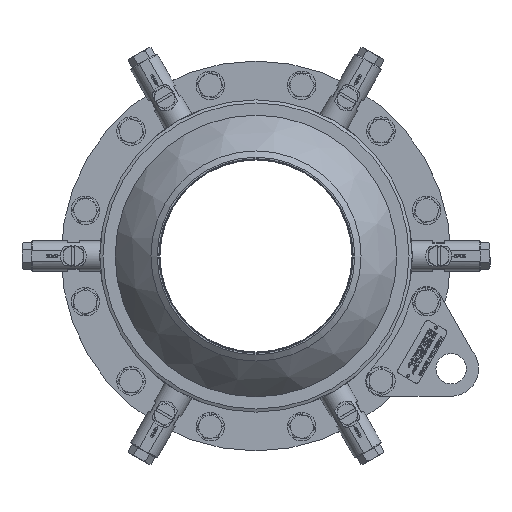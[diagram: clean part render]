
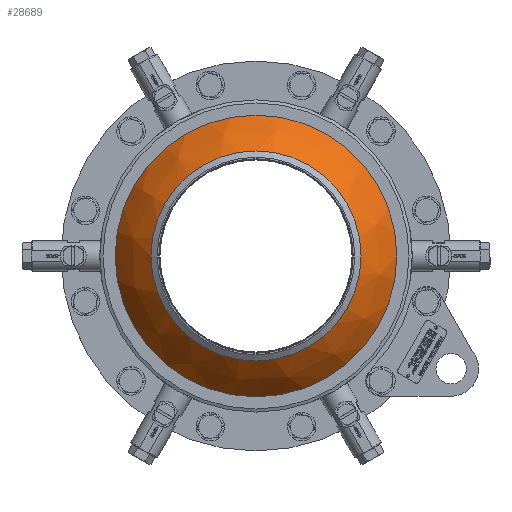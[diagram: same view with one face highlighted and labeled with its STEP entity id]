
A CAD part, front view. The second image highlights one B-rep face of the part: STEP entity #28689.
In plain terms, the highlighted free-form (B-spline) face has degree [2, 2] with [3, 9] control points.
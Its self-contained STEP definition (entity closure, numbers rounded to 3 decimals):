
#6365=(
BOUNDED_CURVE()
B_SPLINE_CURVE(2,(#38381,#38382,#38383),.UNSPECIFIED.,.F.,.F.)
B_SPLINE_CURVE_WITH_KNOTS((3,3),(0.496,0.925),
 .UNSPECIFIED.)
CURVE()
GEOMETRIC_REPRESENTATION_ITEM()
RATIONAL_B_SPLINE_CURVE((1.,0.977,1.))
REPRESENTATION_ITEM('')
);
#6445=(
BOUNDED_SURFACE()
B_SPLINE_SURFACE(2,2,((#38350,#38351,#38352,#38353,#38354,#38355,#38356,
#38357,#38358),(#38359,#38360,#38361,#38362,#38363,#38364,#38365,#38366,
#38367),(#38368,#38369,#38370,#38371,#38372,#38373,#38374,#38375,#38376)),
 .UNSPECIFIED.,.F.,.T.,.F.)
B_SPLINE_SURFACE_WITH_KNOTS((3,3),(3,2,2,2,3),(-0.925,-0.496),
(-3.142,-1.571,0.,1.571,3.142),
 .UNSPECIFIED.)
GEOMETRIC_REPRESENTATION_ITEM()
RATIONAL_B_SPLINE_SURFACE(((1.,0.707,1.,0.707,1.,
0.707,1.,0.707,1.),(0.977,0.691,
0.977,0.691,0.977,0.691,
0.977,0.691,0.977),(1.,0.707,
1.,0.707,1.,0.707,1.,0.707,1.)))
REPRESENTATION_ITEM('')
SURFACE()
);
#10087=FACE_OUTER_BOUND('',#11708,.T.);
#11708=EDGE_LOOP('',(#20623,#20624,#20625,#20626,#20627,#20628));
#13552=CIRCLE('',#30378,4.313);
#13553=CIRCLE('',#30379,4.313);
#13554=CIRCLE('',#30380,5.781);
#13555=CIRCLE('',#30381,5.781);
#13785=VERTEX_POINT('',#38346);
#13786=VERTEX_POINT('',#38347);
#13787=VERTEX_POINT('',#38377);
#13788=VERTEX_POINT('',#38378);
#16521=EDGE_CURVE('',#13785,#13786,#13552,.T.);
#16522=EDGE_CURVE('',#13786,#13785,#13553,.T.);
#16523=EDGE_CURVE('',#13787,#13788,#13554,.T.);
#16524=EDGE_CURVE('',#13788,#13787,#13555,.T.);
#16525=EDGE_CURVE('',#13788,#13786,#6365,.T.);
#20623=ORIENTED_EDGE('',*,*,#16523,.F.);
#20624=ORIENTED_EDGE('',*,*,#16524,.F.);
#20625=ORIENTED_EDGE('',*,*,#16525,.T.);
#20626=ORIENTED_EDGE('',*,*,#16522,.T.);
#20627=ORIENTED_EDGE('',*,*,#16521,.T.);
#20628=ORIENTED_EDGE('',*,*,#16525,.F.);
#28689=ADVANCED_FACE('',(#10087),#6445,.F.);
#30378=AXIS2_PLACEMENT_3D('',#38348,#31941,#31942);
#30379=AXIS2_PLACEMENT_3D('',#38349,#31943,#31944);
#30380=AXIS2_PLACEMENT_3D('',#38379,#31945,#31946);
#30381=AXIS2_PLACEMENT_3D('',#38380,#31947,#31948);
#31941=DIRECTION('center_axis',(1.,0.,0.));
#31942=DIRECTION('ref_axis',(0.,1.,0.));
#31943=DIRECTION('center_axis',(1.,0.,0.));
#31944=DIRECTION('ref_axis',(0.,1.,0.));
#31945=DIRECTION('center_axis',(1.,0.,0.));
#31946=DIRECTION('ref_axis',(0.,1.,0.));
#31947=DIRECTION('center_axis',(1.,0.,0.));
#31948=DIRECTION('ref_axis',(0.,1.,0.));
#38346=CARTESIAN_POINT('',(-7.582,4.313,0.));
#38347=CARTESIAN_POINT('',(-7.582,0.,4.313));
#38348=CARTESIAN_POINT('Origin',(-7.582,0.,
0.));
#38349=CARTESIAN_POINT('Origin',(-7.582,0.,
0.));
#38350=CARTESIAN_POINT('Ctrl Pts',(-7.582,0.,
4.313));
#38351=CARTESIAN_POINT('Ctrl Pts',(-7.582,-4.313,4.313));
#38352=CARTESIAN_POINT('Ctrl Pts',(-7.582,-4.313,0.));
#38353=CARTESIAN_POINT('Ctrl Pts',(-7.582,-4.313,-4.313));
#38354=CARTESIAN_POINT('Ctrl Pts',(-7.582,0.,
-4.313));
#38355=CARTESIAN_POINT('Ctrl Pts',(-7.582,4.313,-4.313));
#38356=CARTESIAN_POINT('Ctrl Pts',(-7.582,4.313,0.));
#38357=CARTESIAN_POINT('Ctrl Pts',(-7.582,4.313,4.313));
#38358=CARTESIAN_POINT('Ctrl Pts',(-7.582,0.,
4.313));
#38359=CARTESIAN_POINT('Ctrl Pts',(-6.888,0.,
5.232));
#38360=CARTESIAN_POINT('Ctrl Pts',(-6.888,-5.232,
5.232));
#38361=CARTESIAN_POINT('Ctrl Pts',(-6.888,-5.232,
0.));
#38362=CARTESIAN_POINT('Ctrl Pts',(-6.888,-5.232,
-5.232));
#38363=CARTESIAN_POINT('Ctrl Pts',(-6.888,0.,
-5.232));
#38364=CARTESIAN_POINT('Ctrl Pts',(-6.888,5.232,-5.232));
#38365=CARTESIAN_POINT('Ctrl Pts',(-6.888,5.232,0.));
#38366=CARTESIAN_POINT('Ctrl Pts',(-6.888,5.232,5.232));
#38367=CARTESIAN_POINT('Ctrl Pts',(-6.888,0.,
5.232));
#38368=CARTESIAN_POINT('Ctrl Pts',(-5.875,0.,
5.781));
#38369=CARTESIAN_POINT('Ctrl Pts',(-5.875,-5.781,
5.781));
#38370=CARTESIAN_POINT('Ctrl Pts',(-5.875,-5.781,
0.));
#38371=CARTESIAN_POINT('Ctrl Pts',(-5.875,-5.781,
-5.781));
#38372=CARTESIAN_POINT('Ctrl Pts',(-5.875,0.,
-5.781));
#38373=CARTESIAN_POINT('Ctrl Pts',(-5.875,5.781,-5.781));
#38374=CARTESIAN_POINT('Ctrl Pts',(-5.875,5.781,0.));
#38375=CARTESIAN_POINT('Ctrl Pts',(-5.875,5.781,5.781));
#38376=CARTESIAN_POINT('Ctrl Pts',(-5.875,0.,
5.781));
#38377=CARTESIAN_POINT('',(-5.875,5.781,0.));
#38378=CARTESIAN_POINT('',(-5.875,0.,5.781));
#38379=CARTESIAN_POINT('Origin',(-5.875,0.,
0.));
#38380=CARTESIAN_POINT('Origin',(-5.875,0.,
0.));
#38381=CARTESIAN_POINT('Ctrl Pts',(-5.875,0.,
5.781));
#38382=CARTESIAN_POINT('Ctrl Pts',(-6.888,0.,
5.232));
#38383=CARTESIAN_POINT('Ctrl Pts',(-7.582,0.,
4.313));
